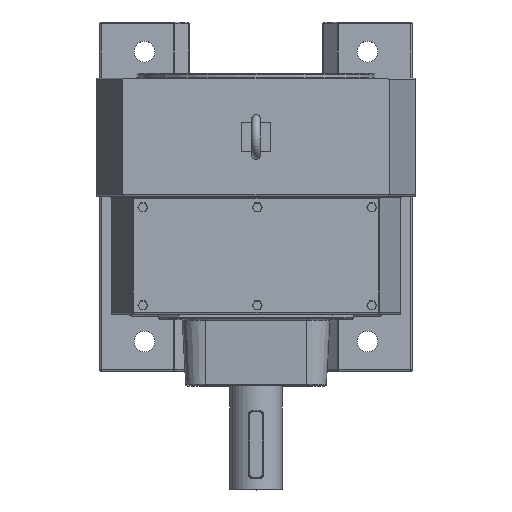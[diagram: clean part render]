
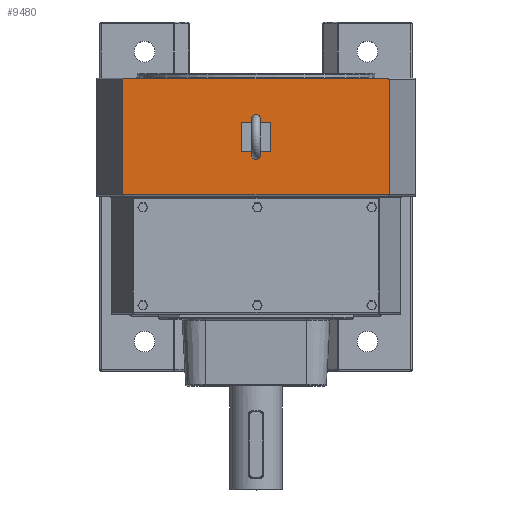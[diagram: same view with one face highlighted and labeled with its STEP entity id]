
A CAD part, top view. The second image highlights one B-rep face of the part: STEP entity #9480.
In plain terms, the highlighted planar face has unit normal (0, 0, 1).
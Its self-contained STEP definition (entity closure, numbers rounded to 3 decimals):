
#238=CARTESIAN_POINT('',(10.,49.75,212.));
#239=VERTEX_POINT('',#238);
#247=CARTESIAN_POINT('',(10.,29.75,212.));
#248=VERTEX_POINT('',#247);
#255=CARTESIAN_POINT('',(10.,49.75,212.));
#256=DIRECTION('',(0.0,-1.0,0.0));
#257=VECTOR('',#256,20.);
#258=LINE('',#255,#257);
#259=EDGE_CURVE('',#239,#248,#258,.T.);
#269=CARTESIAN_POINT('',(-10.,29.75,212.));
#270=VERTEX_POINT('',#269);
#277=CARTESIAN_POINT('',(10.,29.75,212.));
#278=DIRECTION('',(-1.0,0.0,0.0));
#279=VECTOR('',#278,20.0);
#280=LINE('',#277,#279);
#281=EDGE_CURVE('',#248,#270,#280,.T.);
#293=CARTESIAN_POINT('',(-10.,49.75,212.));
#294=VERTEX_POINT('',#293);
#303=CARTESIAN_POINT('',(-10.,49.75,212.));
#304=DIRECTION('',(1.0,0.0,0.0));
#305=VECTOR('',#304,20.0);
#306=LINE('',#303,#305);
#307=EDGE_CURVE('',#294,#239,#306,.T.);
#320=CARTESIAN_POINT('',(-10.,29.75,212.));
#321=DIRECTION('',(0.0,1.0,0.0));
#322=VECTOR('',#321,20.);
#323=LINE('',#320,#322);
#324=EDGE_CURVE('',#270,#294,#323,.T.);
#1629=CARTESIAN_POINT('',(-89.5,78.5,212.0));
#1630=VERTEX_POINT('',#1629);
#1631=CARTESIAN_POINT('',(-88.412,79.5,212.0));
#1632=VERTEX_POINT('',#1631);
#1633=CARTESIAN_POINT('',(-88.412,78.5,212.0));
#1634=DIRECTION('',(0.0,0.0,-1.0));
#1635=DIRECTION('',(-1.0,0.0,0.0));
#1636=AXIS2_PLACEMENT_3D('',#1633,#1634,#1635);
#1637=ELLIPSE('',#1636,1.088,1.);
#1638=EDGE_CURVE('',#1630,#1632,#1637,.T.);
#1885=CARTESIAN_POINT('',(88.412,79.5,212.));
#1886=VERTEX_POINT('',#1885);
#1887=CARTESIAN_POINT('',(88.412,79.5,212.));
#1888=DIRECTION('',(-1.0,0.0,0.0));
#1889=VECTOR('',#1888,176.824);
#1890=LINE('',#1887,#1889);
#1891=EDGE_CURVE('',#1886,#1632,#1890,.T.);
#2137=CARTESIAN_POINT('',(89.5,78.5,212.0));
#2138=VERTEX_POINT('',#2137);
#2139=CARTESIAN_POINT('',(88.412,78.5,212.));
#2140=DIRECTION('',(0.0,0.0,-1.0));
#2141=DIRECTION('',(1.0,0.0,0.0));
#2142=AXIS2_PLACEMENT_3D('',#2139,#2140,#2141);
#2143=ELLIPSE('',#2142,1.088,1.);
#2144=EDGE_CURVE('',#1886,#2138,#2143,.T.);
#2371=CARTESIAN_POINT('',(-89.5,1.0,212.0));
#2372=VERTEX_POINT('',#2371);
#2403=CARTESIAN_POINT('',(89.5,1.,212.0));
#2404=VERTEX_POINT('',#2403);
#2412=CARTESIAN_POINT('',(89.5,1.,212.));
#2413=DIRECTION('',(-1.0,0.0,0.0));
#2414=VECTOR('',#2413,179.);
#2415=LINE('',#2412,#2414);
#2416=EDGE_CURVE('',#2404,#2372,#2415,.T.);
#9451=CARTESIAN_POINT('',(0.0,0.0,212.));
#9452=DIRECTION('',(0.0,0.0,1.0));
#9453=DIRECTION('',(1.0,0.0,0.0));
#9454=AXIS2_PLACEMENT_3D('',#9451,#9452,#9453);
#9455=PLANE('',#9454);
#9456=ORIENTED_EDGE('',*,*,#1638,.F.);
#9457=CARTESIAN_POINT('',(-89.5,1.0,212.0));
#9458=DIRECTION('',(0.0,1.0,0.0));
#9459=VECTOR('',#9458,77.5);
#9460=LINE('',#9457,#9459);
#9461=EDGE_CURVE('',#2372,#1630,#9460,.T.);
#9462=ORIENTED_EDGE('',*,*,#9461,.F.);
#9463=ORIENTED_EDGE('',*,*,#2416,.F.);
#9464=CARTESIAN_POINT('',(89.5,1.,212.0));
#9465=DIRECTION('',(0.0,1.0,0.0));
#9466=VECTOR('',#9465,77.5);
#9467=LINE('',#9464,#9466);
#9468=EDGE_CURVE('',#2404,#2138,#9467,.T.);
#9469=ORIENTED_EDGE('',*,*,#9468,.T.);
#9470=ORIENTED_EDGE('',*,*,#2144,.F.);
#9471=ORIENTED_EDGE('',*,*,#1891,.T.);
#9472=EDGE_LOOP('',(#9456,#9462,#9463,#9469,#9470,#9471));
#9473=FACE_OUTER_BOUND('',#9472,.T.);
#9474=ORIENTED_EDGE('',*,*,#259,.T.);
#9475=ORIENTED_EDGE('',*,*,#281,.T.);
#9476=ORIENTED_EDGE('',*,*,#324,.T.);
#9477=ORIENTED_EDGE('',*,*,#307,.T.);
#9478=EDGE_LOOP('',(#9474,#9475,#9476,#9477));
#9479=FACE_BOUND('',#9478,.T.);
#9480=ADVANCED_FACE('',(#9473,#9479),#9455,.T.);
